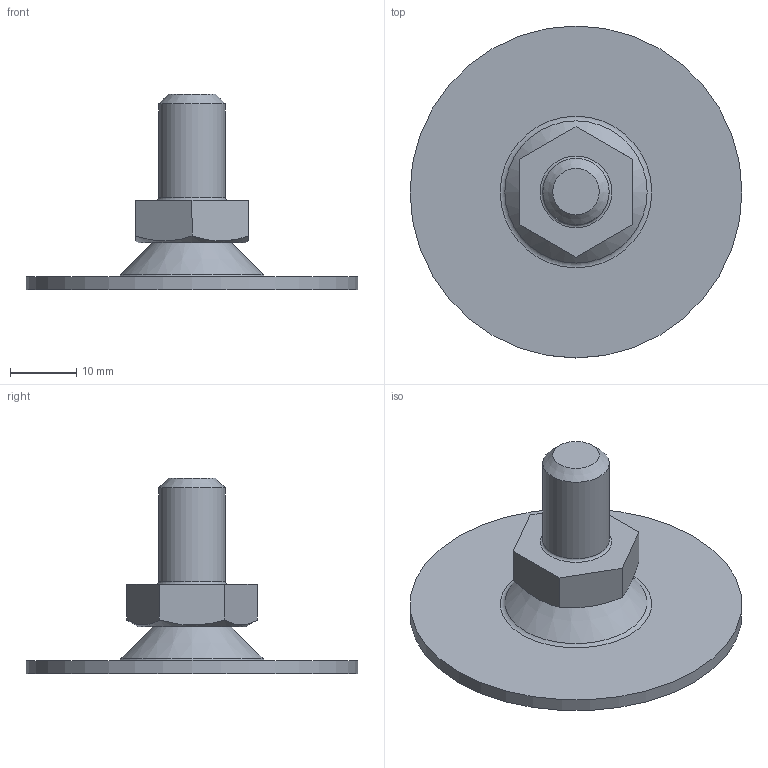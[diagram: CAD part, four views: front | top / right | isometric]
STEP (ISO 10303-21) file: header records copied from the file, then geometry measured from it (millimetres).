
FILE_DESCRIPTION(('STEP AP203'), '1');
FILE_NAME('A00050.1051016', '', ('UNSPECIFIED'), ('UNSPECIFIED'), 'C3D Converter', 'C3D Toolkit', '');
FILE_SCHEMA(('CONFIG_CONTROL_DESIGN'));
Length unit declared in the file: millimetre
Products named in the file (4): A00050.1051016; A00050.1050
Assembly tree (3 placements, depth 2):
  A00050.1051016
    A00050.1050
    (unnamed)
    (unnamed)
Bounding box: 50 x 50 x 29.52 mm (x, y, z)
Volume: 6932.8 mm3; surface area: 6208 mm2
Topology: 3 solids, 3 shells, 58 faces, 130 edges, 82 vertices
Faces by surface type: plane 28, torus 8, bspline 8, cone 7, cylinder 6, sphere 1
Full cylindrical faces by diameter (mm): 3.3 x1, 4 x1, 4.5 x1, 8 x1, 10 x1, 50 x1
Entity records: 2171 total; most frequent: CARTESIAN_POINT 784, DIRECTION 242, ORIENTED_EDGE 214, EDGE_CURVE 107, AXIS2_PLACEMENT_3D 95, EDGE_LOOP 86, VERTEX_POINT 81, ADVANCED_FACE 58
